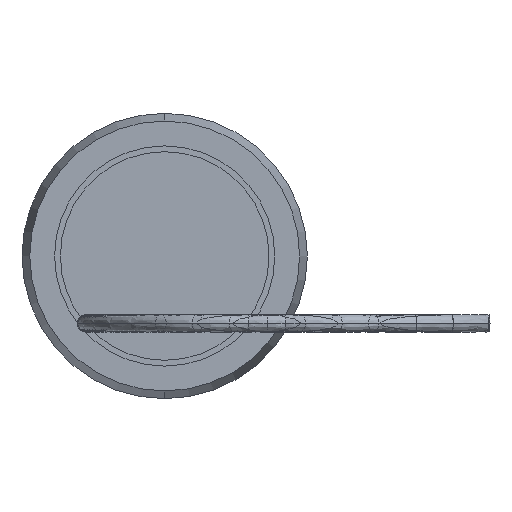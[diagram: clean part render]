
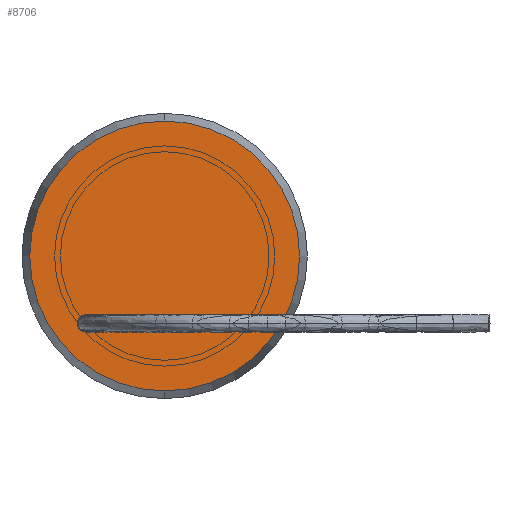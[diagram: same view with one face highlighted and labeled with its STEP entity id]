
A CAD part, left-side view. The second image highlights one B-rep face of the part: STEP entity #8706.
In plain terms, the highlighted planar face has unit normal (-1, 0, 0).
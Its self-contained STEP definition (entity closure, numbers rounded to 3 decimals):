
#156 = CIRCLE ( 'NONE', #157, 0.6 ) ;
#157 = AXIS2_PLACEMENT_3D ( 'NONE', #158, #159, #160 ) ;
#158 = CARTESIAN_POINT ( 'NONE',  ( 0., 0., -4.65 ) ) ;
#159 = DIRECTION ( 'NONE',  ( 1., 0., 0. ) ) ;
#160 = DIRECTION ( 'NONE',  ( 0., 0., 1. ) ) ;
#519 = EDGE_CURVE ( 'NONE', #8162, #8096, #581, .T. ) ;
#581 = CIRCLE ( 'NONE', #582, 9.314 ) ;
#582 = AXIS2_PLACEMENT_3D ( 'NONE', #583, #584, #585 ) ;
#583 = CARTESIAN_POINT ( 'NONE',  ( 0., 0., 0. ) ) ;
#584 = DIRECTION ( 'NONE',  ( 1., 0., 0. ) ) ;
#585 = DIRECTION ( 'NONE',  ( 0., 0., -1. ) ) ;
#985 = CARTESIAN_POINT ( 'NONE',  ( 0., 2.54, -4.05 ) ) ;
#1208 = CARTESIAN_POINT ( 'NONE',  ( 0., 2.54, -5.25 ) ) ;
#1340 = VERTEX_POINT ( 'NONE', #985 ) ;
#1539 = VERTEX_POINT ( 'NONE', #1208 ) ;
#1693 = FACE_BOUND ( 'NONE', #8751, .T. ) ;
#1694 = FACE_BOUND ( 'NONE', #8951, .T. ) ;
#1695 = FACE_BOUND ( 'NONE', #8417, .T. ) ;
#1696 = FACE_OUTER_BOUND ( 'NONE', #8570, .T. ) ;
#1697 = PLANE ( 'NONE',  #1698 ) ;
#1698 = AXIS2_PLACEMENT_3D ( 'NONE', #1699, #1700, #1701 ) ;
#1699 = CARTESIAN_POINT ( 'NONE',  ( 0., 9.687, 9.687 ) ) ;
#1700 = DIRECTION ( 'NONE',  ( 1., 0., 0. ) ) ;
#1701 = DIRECTION ( 'NONE',  ( 0., -1., 0. ) ) ;
#3092 = CIRCLE ( 'NONE', #3097, 0.6 ) ;
#3097 = AXIS2_PLACEMENT_3D ( 'NONE', #3098, #3099, #3100 ) ;
#3098 = CARTESIAN_POINT ( 'NONE',  ( 0., -2.54, -4.65 ) ) ;
#3099 = DIRECTION ( 'NONE',  ( -1., 0., 0. ) ) ;
#3100 = DIRECTION ( 'NONE',  ( 0., 0., 1. ) ) ;
#3718 = EDGE_CURVE ( 'NONE', #9370, #9331, #3092, .T. ) ;
#4910 = CIRCLE ( 'NONE', #4911, 0.6 ) ;
#4911 = AXIS2_PLACEMENT_3D ( 'NONE', #4912, #4913, #4914 ) ;
#4912 = CARTESIAN_POINT ( 'NONE',  ( 0., -2.54, -4.65 ) ) ;
#4913 = DIRECTION ( 'NONE',  ( -1., 0., 0. ) ) ;
#4914 = DIRECTION ( 'NONE',  ( 0., 0., 1. ) ) ;
#5006 = CIRCLE ( 'NONE', #5007, 0.6 ) ;
#5007 = AXIS2_PLACEMENT_3D ( 'NONE', #5008, #5009, #5010 ) ;
#5008 = CARTESIAN_POINT ( 'NONE',  ( 0., 2.54, -4.65 ) ) ;
#5009 = DIRECTION ( 'NONE',  ( -1., 0., 0. ) ) ;
#5010 = DIRECTION ( 'NONE',  ( 0., 0., 1. ) ) ;
#5188 = CARTESIAN_POINT ( 'NONE',  ( 0., -2.54, -4.05 ) ) ;
#5244 = CIRCLE ( 'NONE', #5245, 0.6 ) ;
#5245 = AXIS2_PLACEMENT_3D ( 'NONE', #5246, #5247, #5248 ) ;
#5246 = CARTESIAN_POINT ( 'NONE',  ( 0., 0., -4.65 ) ) ;
#5247 = DIRECTION ( 'NONE',  ( 1., 0., 0. ) ) ;
#5248 = DIRECTION ( 'NONE',  ( 0., 0., 1. ) ) ;
#5425 = CARTESIAN_POINT ( 'NONE',  ( 0., -2.54, -5.25 ) ) ;
#5561 = CARTESIAN_POINT ( 'NONE',  ( 0., 0., -5.25 ) ) ;
#5633 = CARTESIAN_POINT ( 'NONE',  ( 0., 0., -4.05 ) ) ;
#6613 = VERTEX_POINT ( 'NONE', #5561 ) ;
#6621 = CIRCLE ( 'NONE', #6622, 9.314 ) ;
#6622 = AXIS2_PLACEMENT_3D ( 'NONE', #6623, #6624, #6625 ) ;
#6623 = CARTESIAN_POINT ( 'NONE',  ( 0., 0., 0. ) ) ;
#6624 = DIRECTION ( 'NONE',  ( 1., 0., 0. ) ) ;
#6625 = DIRECTION ( 'NONE',  ( 0., 0., -1. ) ) ;
#6654 = VERTEX_POINT ( 'NONE', #5633 ) ;
#6873 = CIRCLE ( 'NONE', #6874, 0.6 ) ;
#6874 = AXIS2_PLACEMENT_3D ( 'NONE', #6875, #6876, #6877 ) ;
#6875 = CARTESIAN_POINT ( 'NONE',  ( 0., 2.54, -4.65 ) ) ;
#6876 = DIRECTION ( 'NONE',  ( -1., 0., 0. ) ) ;
#6877 = DIRECTION ( 'NONE',  ( 0., 0., 1. ) ) ;
#6908 = CARTESIAN_POINT ( 'NONE',  ( 0., 0., -9.314 ) ) ;
#7091 = CARTESIAN_POINT ( 'NONE',  ( 0., 0., 9.314 ) ) ;
#7834 = EDGE_CURVE ( 'NONE', #8096, #8162, #6621, .T. ) ;
#8035 = EDGE_CURVE ( 'NONE', #1539, #1340, #6873, .T. ) ;
#8096 = VERTEX_POINT ( 'NONE', #6908 ) ;
#8162 = VERTEX_POINT ( 'NONE', #7091 ) ;
#8301 = EDGE_CURVE ( 'NONE', #6654, #6613, #156, .T. ) ;
#8383 = ORIENTED_EDGE ( 'NONE', *, *, #9348, .T. ) ;
#8417 = EDGE_LOOP ( 'NONE', ( #8463, #8544 ) ) ;
#8463 = ORIENTED_EDGE ( 'NONE', *, *, #9296, .F. ) ;
#8544 = ORIENTED_EDGE ( 'NONE', *, *, #3718, .F. ) ;
#8562 = ORIENTED_EDGE ( 'NONE', *, *, #519, .F. ) ;
#8570 = EDGE_LOOP ( 'NONE', ( #8629, #8562 ) ) ;
#8629 = ORIENTED_EDGE ( 'NONE', *, *, #7834, .F. ) ;
#8706 = ADVANCED_FACE ( 'NONE', ( #1693, #1694, #1695, #1696 ), #1697, .F. ) ;
#8751 = EDGE_LOOP ( 'NONE', ( #8826, #8908 ) ) ;
#8826 = ORIENTED_EDGE ( 'NONE', *, *, #9315, .F. ) ;
#8908 = ORIENTED_EDGE ( 'NONE', *, *, #8035, .F. ) ;
#8951 = EDGE_LOOP ( 'NONE', ( #8992, #8383 ) ) ;
#8992 = ORIENTED_EDGE ( 'NONE', *, *, #8301, .T. ) ;
#9296 = EDGE_CURVE ( 'NONE', #9331, #9370, #4910, .T. ) ;
#9315 = EDGE_CURVE ( 'NONE', #1340, #1539, #5006, .T. ) ;
#9331 = VERTEX_POINT ( 'NONE', #5188 ) ;
#9348 = EDGE_CURVE ( 'NONE', #6613, #6654, #5244, .T. ) ;
#9370 = VERTEX_POINT ( 'NONE', #5425 ) ;
